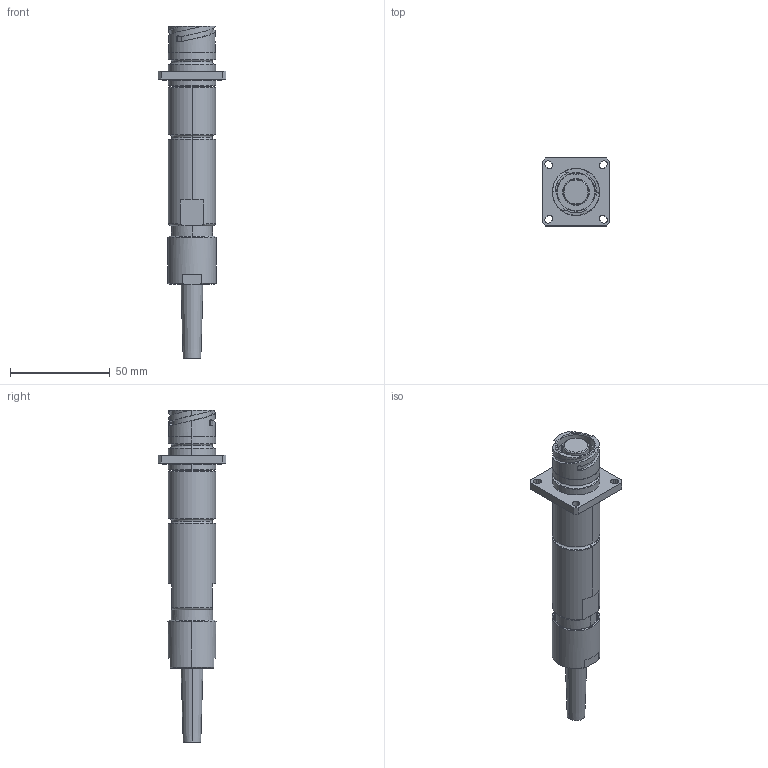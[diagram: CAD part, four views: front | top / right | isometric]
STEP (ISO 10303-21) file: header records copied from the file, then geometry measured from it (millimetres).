
FILE_DESCRIPTION (( 'STEP AP214' ), '1' );
FILE_NAME ('QLINK-RFBX-13XX-SXXX-RA.STEP', '2025-12-16T16:01:33', ( '' ), ( '' ), 'SwSTEP 2.0', 'SolidWorks 2024', '' );
FILE_SCHEMA (( 'AUTOMOTIVE_DESIGN' ));
Length unit declared in the file: millimetre
Products named in the file (1): QLINK-RFBX-13XX-SXXX-RA
Bounding box: 34.16 x 34.16 x 166.83 mm (x, y, z)
Volume: 57620.2 mm3; surface area: 18455.8 mm2
Topology: 2 solids, 2 shells, 196 faces, 468 edges, 294 vertices
Faces by surface type: cylinder 67, plane 58, cone 29, torus 24, bspline 18
Entity records: 9655 total; most frequent: CARTESIAN_POINT 5132, DIRECTION 957, ORIENTED_EDGE 936, EDGE_CURVE 468, AXIS2_PLACEMENT_3D 395, VERTEX_POINT 294, EDGE_LOOP 224, CIRCLE 216
